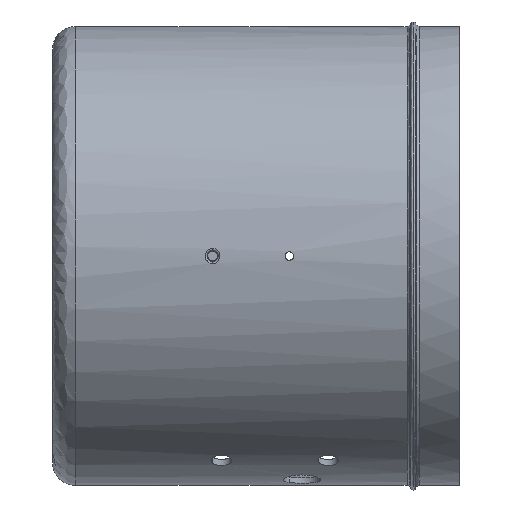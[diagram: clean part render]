
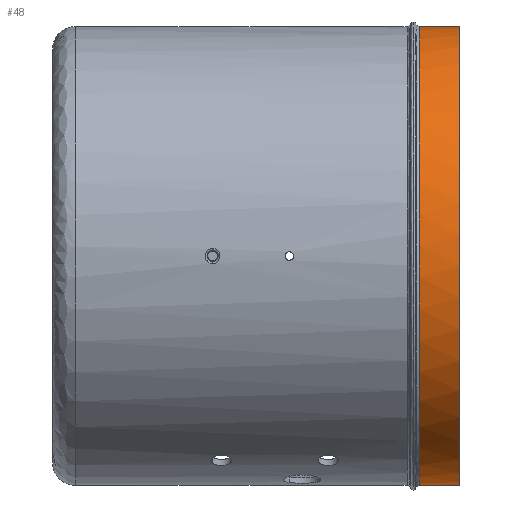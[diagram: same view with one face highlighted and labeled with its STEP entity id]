
A CAD part, front view. The second image highlights one B-rep face of the part: STEP entity #48.
In plain terms, the highlighted cylindrical face has radius 62 mm (diameter 124 mm), a partial arc.
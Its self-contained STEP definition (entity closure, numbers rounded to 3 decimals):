
#48=ADVANCED_FACE('',(#170),#1859,.T.);
#170=FACE_OUTER_BOUND('',#292,.T.);
#292=EDGE_LOOP('',(#464,#465,#466,#467));
#464=ORIENTED_EDGE('',*,*,#1063,.T.);
#465=ORIENTED_EDGE('',*,*,#1064,.T.);
#466=ORIENTED_EDGE('',*,*,#1065,.T.);
#467=ORIENTED_EDGE('',*,*,#1066,.T.);
#1063=EDGE_CURVE('',#1669,#1668,#1531,.T.);
#1064=EDGE_CURVE('',#1668,#1670,#1355,.T.);
#1065=EDGE_CURVE('',#1670,#1671,#1532,.T.);
#1066=EDGE_CURVE('',#1671,#1669,#1356,.T.);
#1355=B_SPLINE_CURVE_WITH_KNOTS('',1,(#6430,#6431),.UNSPECIFIED.,.F.,.F.,
(2,2),(0.,10.816),.UNSPECIFIED.);
#1356=B_SPLINE_CURVE_WITH_KNOTS('',1,(#6437,#6438),.UNSPECIFIED.,.F.,.F.,
(2,2),(0.,10.816),.UNSPECIFIED.);
#1531=(
BOUNDED_CURVE()
B_SPLINE_CURVE(2,(#6425,#6426,#6427,#6428,#6429),.UNSPECIFIED.,.F.,.F.)
B_SPLINE_CURVE_WITH_KNOTS((3,2,3),(-194.779,-97.389,0.),
 .UNSPECIFIED.)
CURVE()
GEOMETRIC_REPRESENTATION_ITEM()
RATIONAL_B_SPLINE_CURVE((1.,0.707,1.,0.707,1.))
REPRESENTATION_ITEM('')
);
#1532=(
BOUNDED_CURVE()
B_SPLINE_CURVE(2,(#6432,#6433,#6434,#6435,#6436),.UNSPECIFIED.,.F.,.F.)
B_SPLINE_CURVE_WITH_KNOTS((3,2,3),(0.,97.389,194.779),
 .UNSPECIFIED.)
CURVE()
GEOMETRIC_REPRESENTATION_ITEM()
RATIONAL_B_SPLINE_CURVE((1.,0.707,1.,0.707,1.))
REPRESENTATION_ITEM('')
);
#1668=VERTEX_POINT('',#6177);
#1669=VERTEX_POINT('',#6178);
#1670=VERTEX_POINT('',#6179);
#1671=VERTEX_POINT('',#6180);
#1859=CYLINDRICAL_SURFACE('',#2059,62.);
#2059=AXIS2_PLACEMENT_3D('',#2709,#2123,$);
#2123=DIRECTION('',(-1.,0.,0.));
#2709=CARTESIAN_POINT('',(748.474,58.002,81.563));
#6177=CARTESIAN_POINT('',(743.066,58.002,19.563));
#6178=CARTESIAN_POINT('',(743.066,58.002,143.563));
#6179=CARTESIAN_POINT('',(753.882,58.002,19.563));
#6180=CARTESIAN_POINT('',(753.882,58.002,143.563));
#6425=CARTESIAN_POINT('',(743.066,58.002,143.563));
#6426=CARTESIAN_POINT('',(743.066,-3.998,143.563));
#6427=CARTESIAN_POINT('',(743.066,-3.998,81.563));
#6428=CARTESIAN_POINT('',(743.066,-3.998,19.563));
#6429=CARTESIAN_POINT('',(743.066,58.002,19.563));
#6430=CARTESIAN_POINT('',(743.066,58.002,19.563));
#6431=CARTESIAN_POINT('',(753.882,58.002,19.563));
#6432=CARTESIAN_POINT('',(753.882,58.002,19.563));
#6433=CARTESIAN_POINT('',(753.882,-3.998,19.563));
#6434=CARTESIAN_POINT('',(753.882,-3.998,81.563));
#6435=CARTESIAN_POINT('',(753.882,-3.998,143.563));
#6436=CARTESIAN_POINT('',(753.882,58.002,143.563));
#6437=CARTESIAN_POINT('',(753.882,58.002,143.563));
#6438=CARTESIAN_POINT('',(743.066,58.002,143.563));
